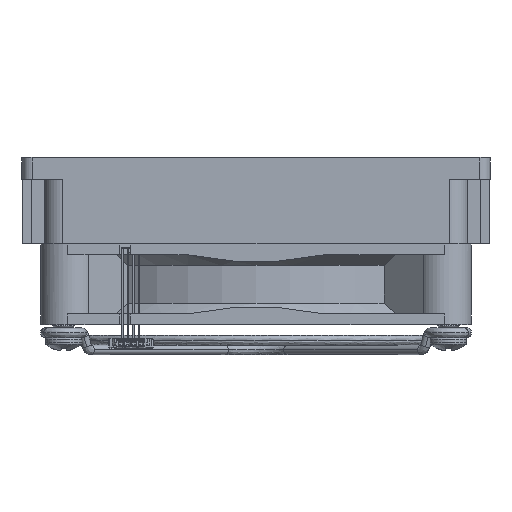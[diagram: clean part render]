
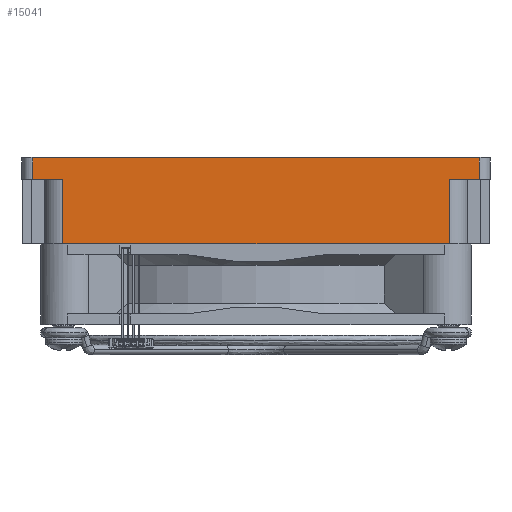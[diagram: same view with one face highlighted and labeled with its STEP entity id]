
A CAD part, front view. The second image highlights one B-rep face of the part: STEP entity #15041.
In plain terms, the highlighted planar face has unit normal (0, -1, 0).
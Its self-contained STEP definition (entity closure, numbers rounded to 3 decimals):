
#1428 = DIRECTION ( 'NONE',  ( 0., 0., -1. ) ) ;
#1709 = VECTOR ( 'NONE', #33728, 1000. ) ;
#3329 = LINE ( 'NONE', #30943, #1709 ) ;
#4022 = CARTESIAN_POINT ( 'NONE',  ( -36.548, -100., -7. ) ) ;
#4295 = CARTESIAN_POINT ( 'NONE',  ( -44.95, -100., 9. ) ) ;
#5032 = ORIENTED_EDGE ( 'NONE', *, *, #21222, .F. ) ;
#5854 = DIRECTION ( 'NONE',  ( 0., 0., 1. ) ) ;
#6006 = CARTESIAN_POINT ( 'NONE',  ( 40.05, -100., 5. ) ) ;
#6416 = VECTOR ( 'NONE', #12349, 1000. ) ;
#6531 = EDGE_CURVE ( 'NONE', #38433, #32101, #3329, .T. ) ;
#7031 = VERTEX_POINT ( 'NONE', #9153 ) ;
#7617 = AXIS2_PLACEMENT_3D ( 'NONE', #20942, #33247, #5854 ) ;
#7930 = CARTESIAN_POINT ( 'NONE',  ( 34.434, -100., 5. ) ) ;
#8107 = DIRECTION ( 'NONE',  ( 0., 0., 1. ) ) ;
#8838 = PLANE ( 'NONE',  #7617 ) ;
#8938 = VECTOR ( 'NONE', #1428, 1000. ) ;
#9153 = CARTESIAN_POINT ( 'NONE',  ( -37.334, -100., 5. ) ) ;
#9791 = LINE ( 'NONE', #4022, #28147 ) ;
#10182 = CARTESIAN_POINT ( 'NONE',  ( -42.95, -100., 9. ) ) ;
#10374 = VERTEX_POINT ( 'NONE', #15690 ) ;
#11846 = ORIENTED_EDGE ( 'NONE', *, *, #17136, .F. ) ;
#12201 = FACE_OUTER_BOUND ( 'NONE', #30964, .T. ) ;
#12291 = VERTEX_POINT ( 'NONE', #29538 ) ;
#12349 = DIRECTION ( 'NONE',  ( -1., 0., 0. ) ) ;
#13107 = CARTESIAN_POINT ( 'NONE',  ( 40.05, -100., 5. ) ) ;
#13402 = EDGE_CURVE ( 'NONE', #15938, #32101, #16202, .T. ) ;
#15041 = ADVANCED_FACE ( 'NONE', ( #12201 ), #8838, .F. ) ;
#15690 = CARTESIAN_POINT ( 'NONE',  ( -37.334, -100., -7. ) ) ;
#15938 = VERTEX_POINT ( 'NONE', #10182 ) ;
#16115 = EDGE_CURVE ( 'NONE', #15938, #12291, #22874, .T. ) ;
#16202 = LINE ( 'NONE', #4295, #36693 ) ;
#16790 = VECTOR ( 'NONE', #35413, 1000. ) ;
#17136 = EDGE_CURVE ( 'NONE', #10374, #7031, #38278, .T. ) ;
#17384 = VECTOR ( 'NONE', #18118, 1000. ) ;
#17528 = LINE ( 'NONE', #26474, #16790 ) ;
#17968 = EDGE_CURVE ( 'NONE', #34945, #25825, #17528, .T. ) ;
#18118 = DIRECTION ( 'NONE',  ( -1., 0., 0. ) ) ;
#19191 = DIRECTION ( 'NONE',  ( 1., 0., 0. ) ) ;
#20251 = CARTESIAN_POINT ( 'NONE',  ( 34.434, -100., -7. ) ) ;
#20942 = CARTESIAN_POINT ( 'NONE',  ( 0., -100., 0. ) ) ;
#21089 = LINE ( 'NONE', #6006, #17384 ) ;
#21222 = EDGE_CURVE ( 'NONE', #34945, #10374, #9791, .T. ) ;
#21351 = ORIENTED_EDGE ( 'NONE', *, *, #16115, .T. ) ;
#21700 = DIRECTION ( 'NONE',  ( -1., 0., 0. ) ) ;
#22874 = LINE ( 'NONE', #25645, #8938 ) ;
#23190 = CARTESIAN_POINT ( 'NONE',  ( -37.334, -100., -139.548 ) ) ;
#23809 = ORIENTED_EDGE ( 'NONE', *, *, #29746, .F. ) ;
#24430 = ORIENTED_EDGE ( 'NONE', *, *, #17968, .T. ) ;
#24597 = ORIENTED_EDGE ( 'NONE', *, *, #13402, .F. ) ;
#25645 = CARTESIAN_POINT ( 'NONE',  ( -42.95, -100., 7. ) ) ;
#25825 = VERTEX_POINT ( 'NONE', #7930 ) ;
#26316 = LINE ( 'NONE', #27455, #6416 ) ;
#26474 = CARTESIAN_POINT ( 'NONE',  ( 34.434, -100., -139.548 ) ) ;
#26994 = ORIENTED_EDGE ( 'NONE', *, *, #37927, .F. ) ;
#27455 = CARTESIAN_POINT ( 'NONE',  ( 40.05, -100., 5. ) ) ;
#28147 = VECTOR ( 'NONE', #21700, 1000. ) ;
#29538 = CARTESIAN_POINT ( 'NONE',  ( -42.95, -100., 5. ) ) ;
#29746 = EDGE_CURVE ( 'NONE', #7031, #12291, #21089, .T. ) ;
#30035 = CARTESIAN_POINT ( 'NONE',  ( 40.05, -100., 9. ) ) ;
#30112 = VECTOR ( 'NONE', #8107, 1000. ) ;
#30943 = CARTESIAN_POINT ( 'NONE',  ( 40.05, -100., 9. ) ) ;
#30964 = EDGE_LOOP ( 'NONE', ( #5032, #24430, #26994, #31725, #24597, #21351, #23809, #11846 ) ) ;
#31725 = ORIENTED_EDGE ( 'NONE', *, *, #6531, .T. ) ;
#32101 = VERTEX_POINT ( 'NONE', #30035 ) ;
#33247 = DIRECTION ( 'NONE',  ( 0., 1., 0. ) ) ;
#33728 = DIRECTION ( 'NONE',  ( 0., 0., 1. ) ) ;
#34945 = VERTEX_POINT ( 'NONE', #20251 ) ;
#35413 = DIRECTION ( 'NONE',  ( 0., 0., 1. ) ) ;
#36693 = VECTOR ( 'NONE', #19191, 1000. ) ;
#37927 = EDGE_CURVE ( 'NONE', #38433, #25825, #26316, .T. ) ;
#38278 = LINE ( 'NONE', #23190, #30112 ) ;
#38433 = VERTEX_POINT ( 'NONE', #13107 ) ;
